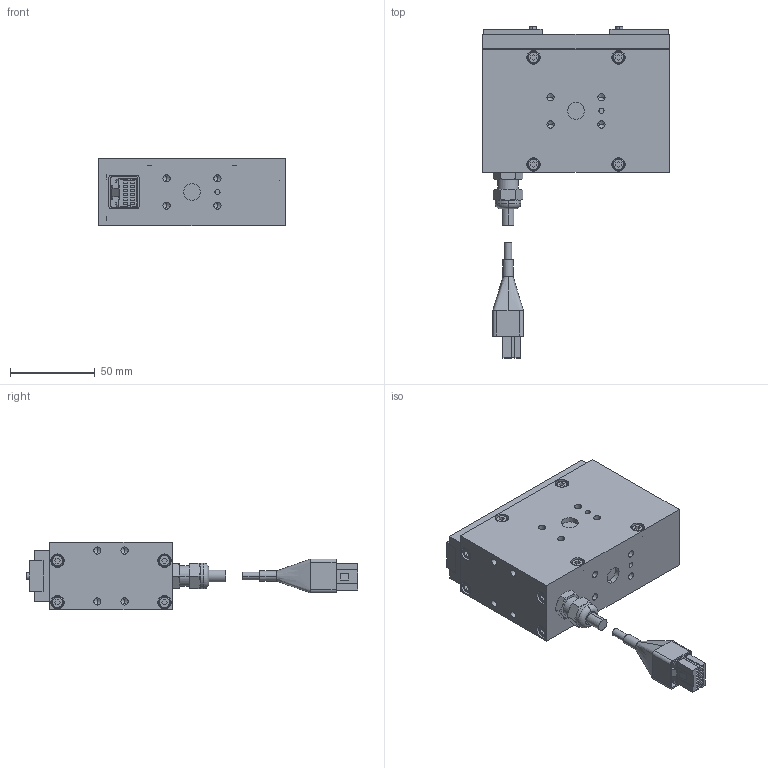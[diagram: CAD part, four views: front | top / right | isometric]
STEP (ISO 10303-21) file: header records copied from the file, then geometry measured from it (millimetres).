
FILE_DESCRIPTION (( 'STEP AP214' ), '1' );
FILE_NAME ('ESG-FS-2840-P.STEP', '2009-02-12T09:12:07', ( '風音庵' ), ( '' ), 'SwSTEP 2.0', 'SolidWorks 2007', '' );
FILE_SCHEMA (( 'AUTOMOTIVE_DESIGN' ));
Length unit declared in the file: millimetre
Products named in the file (7): JOINT_蹬怮椔; ESG1-FS-2840 FINGER_蹬怮椔; ESG-FS-2840-P; CONNECTOR COVER　BB_ﾃﾞﾌｫﾙﾄ; CONNECTOR　DK-2100D-12R_ﾃﾞﾌｫﾙﾄ; CNNECTOR丂BB丂ASSY_棉太倌; ESG1-FS-2840-P BODY_蹬怮椔
Assembly tree (7 placements, depth 3):
  ESG-FS-2840-P
    ESG1-FS-2840-P BODY_蹬怮椔
    CNNECTOR丂BB丂ASSY_棉太倌
      CONNECTOR　DK-2100D-12R_ﾃﾞﾌｫﾙﾄ
      CONNECTOR COVER　BB_ﾃﾞﾌｫﾙﾄ
    JOINT_蹬怮椔
    ESG1-FS-2840 FINGER_蹬怮椔  x2
Bounding box: 110 x 195.39 x 40 mm (x, y, z)
Volume: 355037.5 mm3; surface area: 51056.6 mm2
Topology: 6 solids, 6 shells, 447 faces, 1048 edges, 658 vertices
Faces by surface type: plane 263, cylinder 104, cone 76, bspline 2, torus 2
Entity records: 17604 total; most frequent: CARTESIAN_POINT 2775, DIRECTION 2064, ORIENTED_EDGE 1980, EDGE_CURVE 990, VECTOR 690, LINE 690, AXIS2_PLACEMENT_3D 687, VERTEX_POINT 636
